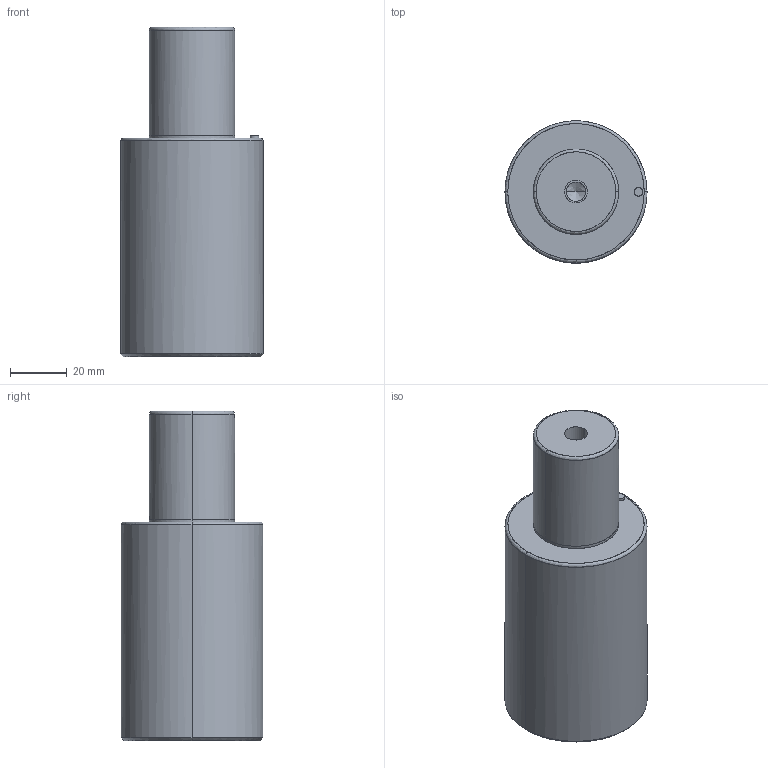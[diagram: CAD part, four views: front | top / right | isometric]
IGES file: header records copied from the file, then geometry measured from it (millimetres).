
Global section: file name: E:\UnigraphicsGraphicData\MISUMI_PRESS-PARTS\IGES\3d_gsc50-38_03818_r00.igs; native system: NX V5.0; preprocessor: UGS NX IGES V5.0; author: MISUMI; date: 20110105.160749; units: millimetre
Bounding box: 50 x 49.95 x 116 mm (x, y, z)
Surface area: 20390.8 mm2 (no closed solid volume)
Topology: 0 solids, 0 shells, 32 faces, 232 edges, 228 vertices
Faces by surface type: bspline 32
